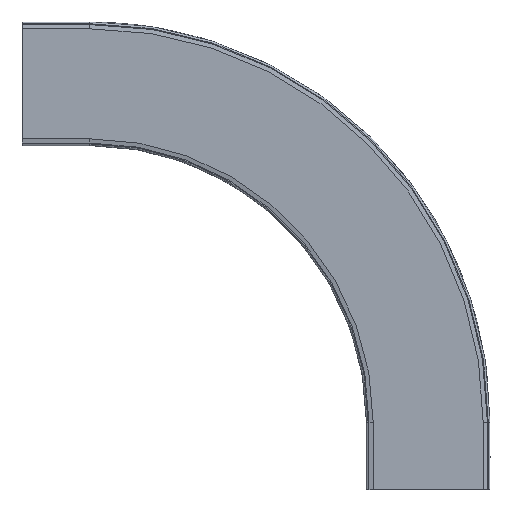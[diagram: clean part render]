
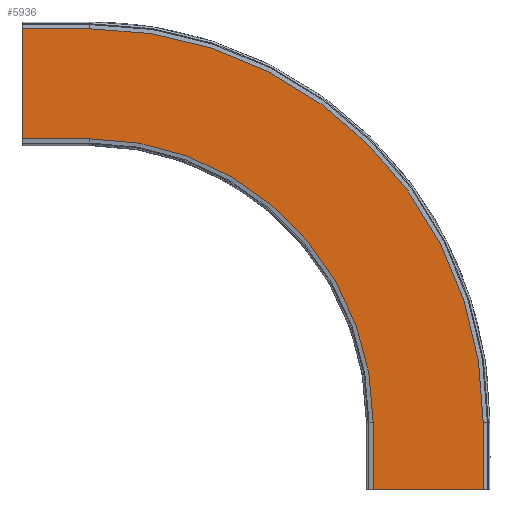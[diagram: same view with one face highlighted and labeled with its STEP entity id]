
A CAD part, front view. The second image highlights one B-rep face of the part: STEP entity #5936.
In plain terms, the highlighted planar face has unit normal (0, -1, 0).
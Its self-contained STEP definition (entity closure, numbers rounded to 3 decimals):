
#5693=CARTESIAN_POINT('',(104.,-74.,0.0));
#5694=VERTEX_POINT('',#5693);
#5701=CARTESIAN_POINT('',(-26.,-74.,0.0));
#5702=VERTEX_POINT('',#5701);
#5703=CARTESIAN_POINT('',(-26.,-74.,0.0));
#5704=DIRECTION('',(1.0,0.0,0.0));
#5705=VECTOR('',#5704,130.);
#5706=LINE('',#5703,#5705);
#5707=EDGE_CURVE('',#5702,#5694,#5706,.T.);
#5762=CARTESIAN_POINT('',(-26.,-74.,80.0));
#5763=VERTEX_POINT('',#5762);
#5772=CARTESIAN_POINT('',(-26.,-74.,0.0));
#5773=DIRECTION('',(0.0,0.0,1.0));
#5774=VECTOR('',#5773,80.0);
#5775=LINE('',#5772,#5774);
#5776=EDGE_CURVE('',#5702,#5763,#5775,.T.);
#5786=CARTESIAN_POINT('',(104.,-74.,80.0));
#5787=VERTEX_POINT('',#5786);
#5796=CARTESIAN_POINT('',(104.,-74.,0.0));
#5797=DIRECTION('',(0.0,0.0,1.0));
#5798=VECTOR('',#5797,80.0);
#5799=LINE('',#5796,#5798);
#5800=EDGE_CURVE('',#5694,#5787,#5799,.T.);
#5819=CARTESIAN_POINT('',(-361.,-74.,415.));
#5820=VERTEX_POINT('',#5819);
#5835=CARTESIAN_POINT('',(-361.,-74.,80.0));
#5836=DIRECTION('',(0.0,-1.0,0.0));
#5837=DIRECTION('',(1.0,0.0,0.0));
#5838=AXIS2_PLACEMENT_3D('',#5835,#5836,#5837);
#5839=CIRCLE('',#5838,335.);
#5840=EDGE_CURVE('',#5763,#5820,#5839,.T.);
#5894=CARTESIAN_POINT('',(347.319,-74.0,545.));
#5895=DIRECTION('',(0.0,-1.0,0.0));
#5896=DIRECTION('',(1.0,0.0,0.0));
#5897=AXIS2_PLACEMENT_3D('',#5894,#5895,#5896);
#5898=PLANE('',#5897);
#5899=CARTESIAN_POINT('',(-441.,-74.,545.));
#5900=VERTEX_POINT('',#5899);
#5901=CARTESIAN_POINT('',(-441.,-74.,415.));
#5902=VERTEX_POINT('',#5901);
#5903=CARTESIAN_POINT('',(-441.,-74.,545.));
#5904=DIRECTION('',(0.0,0.0,-1.0));
#5905=VECTOR('',#5904,130.);
#5906=LINE('',#5903,#5905);
#5907=EDGE_CURVE('',#5900,#5902,#5906,.T.);
#5908=ORIENTED_EDGE('',*,*,#5907,.T.);
#5909=CARTESIAN_POINT('',(-361.,-74.,415.));
#5910=DIRECTION('',(-1.0,0.0,0.0));
#5911=VECTOR('',#5910,80.0);
#5912=LINE('',#5909,#5911);
#5913=EDGE_CURVE('',#5820,#5902,#5912,.T.);
#5914=ORIENTED_EDGE('',*,*,#5913,.F.);
#5915=ORIENTED_EDGE('',*,*,#5840,.F.);
#5916=ORIENTED_EDGE('',*,*,#5776,.F.);
#5917=ORIENTED_EDGE('',*,*,#5707,.T.);
#5918=ORIENTED_EDGE('',*,*,#5800,.T.);
#5919=CARTESIAN_POINT('',(-361.,-74.,545.));
#5920=VERTEX_POINT('',#5919);
#5921=CARTESIAN_POINT('',(-361.,-74.,80.0));
#5922=DIRECTION('',(0.0,-1.0,0.0));
#5923=DIRECTION('',(1.0,0.0,0.0));
#5924=AXIS2_PLACEMENT_3D('',#5921,#5922,#5923);
#5925=CIRCLE('',#5924,465.);
#5926=EDGE_CURVE('',#5787,#5920,#5925,.T.);
#5927=ORIENTED_EDGE('',*,*,#5926,.T.);
#5928=CARTESIAN_POINT('',(-361.,-74.,545.));
#5929=DIRECTION('',(-1.0,0.0,0.0));
#5930=VECTOR('',#5929,80.0);
#5931=LINE('',#5928,#5930);
#5932=EDGE_CURVE('',#5920,#5900,#5931,.T.);
#5933=ORIENTED_EDGE('',*,*,#5932,.T.);
#5934=EDGE_LOOP('',(#5908,#5914,#5915,#5916,#5917,#5918,#5927,#5933));
#5935=FACE_OUTER_BOUND('',#5934,.T.);
#5936=ADVANCED_FACE('',(#5935),#5898,.T.);
